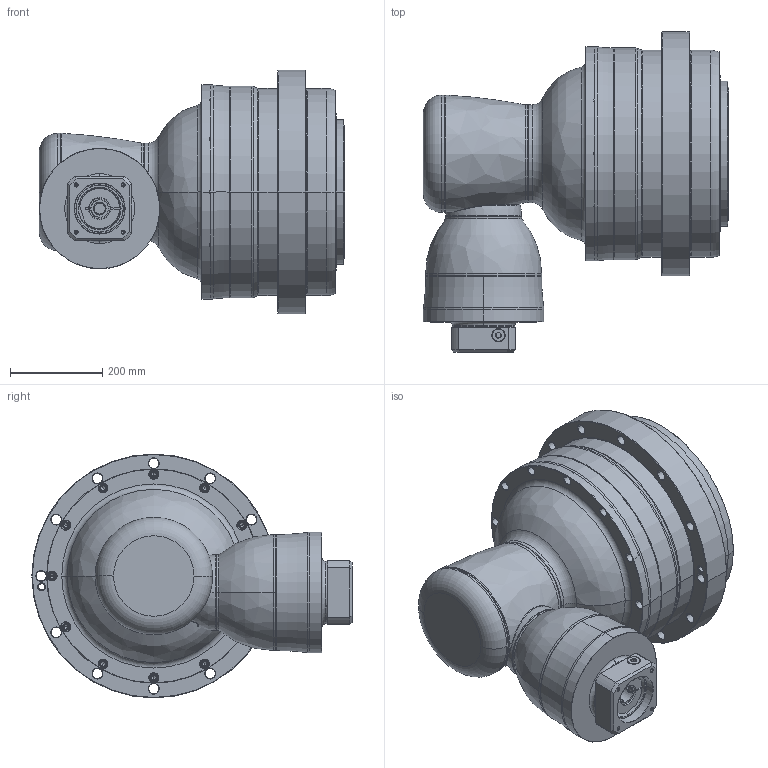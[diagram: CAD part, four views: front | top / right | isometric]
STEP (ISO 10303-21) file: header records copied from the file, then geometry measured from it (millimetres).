
FILE_DESCRIPTION((''),'2;1');
FILE_NAME('AHK450_4ST_38-P0409900101_ASM','2016-08-30T',('d01943'),(''),'PRO/ENGINEER BY PARAMETRIC TECHNOLOGY CORPORATION, 2008410','PRO/ENGINEER BY PARAMETRIC TECHNOLOGY CORPORATION, 2008410','');
FILE_SCHEMA(('CONFIG_CONTROL_DESIGN'));
Length unit declared in the file: millimetre
Products named in the file (12): P1008700002; P1821200001; P0276200003; P0357200003; P1315700001; P1007700001; P1317700201; P0409900101; P0503900012; P0912602201; 21711422019; AHK450_4ST_38-P0409900101_ASM
Assembly tree (11 placements, depth 2):
  AHK450_4ST_38-P0409900101_ASM
    P1008700002
    P1821200001
    P0276200003
    P0357200003
    P1315700001
    P1007700001
    P1317700201
    P0409900101
    P0503900012
    P0912602201
    21711422019
Bounding box: 663.5 x 696 x 530 mm (x, y, z)
Volume: 76389429.5 mm3; surface area: 2653347.1 mm2
Topology: 12 solids, 12 shells, 908 faces, 2019 edges, 1163 vertices
Faces by surface type: cone 330, cylinder 315, plane 117, torus 114, bspline 30, sphere 2
Entity records: 32495 total; most frequent: CARTESIAN_POINT 11769, DIRECTION 4771, ORIENTED_EDGE 3922, AXIS2_PLACEMENT_3D 2029, EDGE_CURVE 1961, VERTEX_POINT 1163, CIRCLE 1128, EDGE_LOOP 1088
